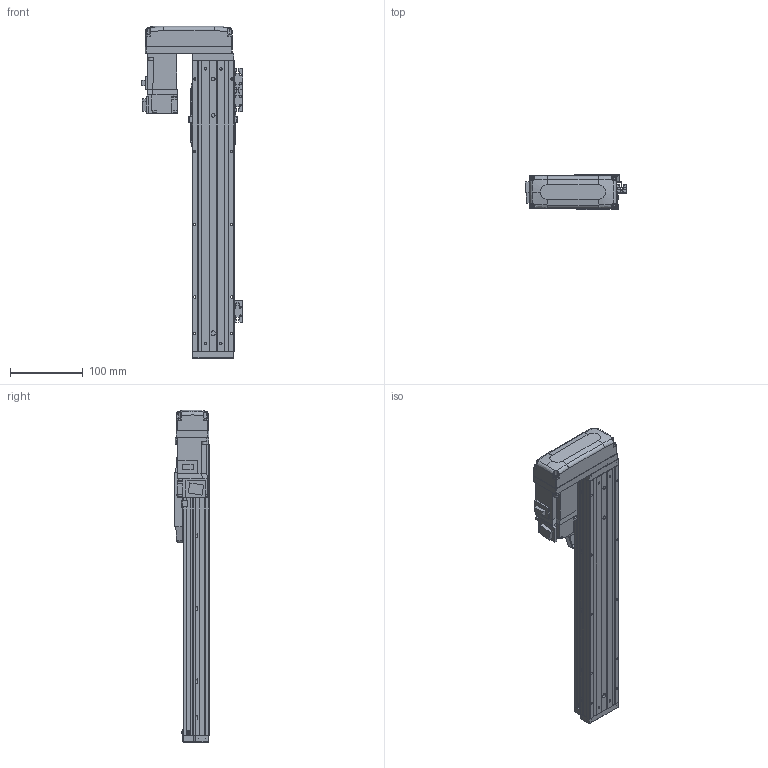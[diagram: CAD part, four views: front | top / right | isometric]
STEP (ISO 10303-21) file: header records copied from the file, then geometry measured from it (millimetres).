
FILE_DESCRIPTION (( 'STEP AP203' ), '1' );
FILE_NAME ('CTHA50-250-BR-M10-C4L.step', '2022-03-19T06:06:31', ( '微软用户' ), ( '微软中国' ), 'SwSTEP 2.0', 'SolidWorks 2020', '' );
FILE_SCHEMA (( 'CONFIG_CONTROL_DESIGN' ));
Length unit declared in the file: millimetre
Products named in the file (20): GBT77-2000 M3×3; CTHA50-002; CTHA50-250-BR-M10-C4L; GBT 70.1-M3℅6; CTHA50-030; KTHA50-001_400; CTHA60-017; CTHA50-031; KTHA50-004; GBT 70.1-M4×12; GBT 70.3-M3℅6; KTHA50-005; CTHA60-016; CTHA50-015-2_CTHA60-015-2; GB¨uT 70.2-M3¡Á6_M3¡Á6; CTHA60-021; CTHA60-033; EE_SX911P_R; HG-KR13（三菱）; GBT 70.1-M3×15
Assembly tree (60 placements, depth 2):
  CTHA50-250-BR-M10-C4L
    KTHA50-001_400
    KTHA50-004
    KTHA50-005
    GB¨uT 70.2-M3¡Á6_M3¡Á6  x10
    EE_SX911P_R  x3
    GBT77-2000 M3×3  x6
    GBT 70.1-M3℅6  x6
    CTHA60-017  x3
    GBT 70.1-M4×12  x10
    CTHA60-016  x2
    CTHA60-021  x2
    HG-KR13（三菱）
    CTHA50-002
    CTHA50-030  x2
    CTHA50-031
    GBT 70.3-M3℅6  x4
    CTHA50-015-2_CTHA60-015-2
    CTHA60-033
    GBT 70.1-M3×15  x4
Bounding box: 139.12 x 48 x 457 mm (x, y, z)
Volume: 1018484 mm3; surface area: 265406.9 mm2
Topology: 62 solids, 62 shells, 2493 faces, 5911 edges, 3618 vertices
Faces by surface type: plane 1410, cylinder 576, cone 349, torus 108, bspline 26, sphere 24
Entity records: 42039 total; most frequent: CARTESIAN_POINT 7771, DIRECTION 6535, ORIENTED_EDGE 6330, EDGE_CURVE 3165, LINE 2211, VECTOR 2211, AXIS2_PLACEMENT_3D 2162, VERTEX_POINT 1992
